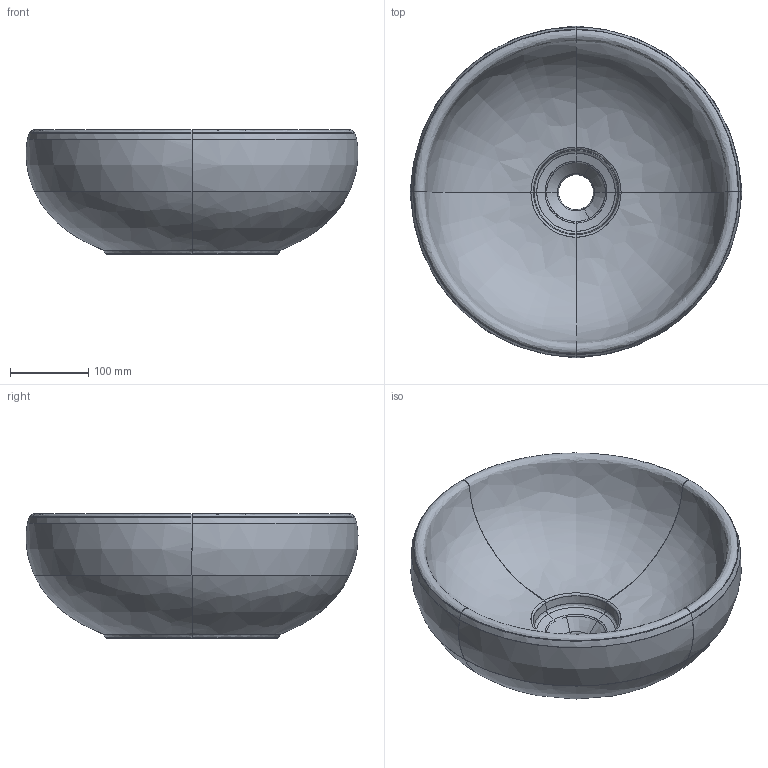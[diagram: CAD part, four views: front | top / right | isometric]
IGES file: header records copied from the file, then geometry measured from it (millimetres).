
Start section: START RECORD GO HERE.
Global section: file name: 7105_3D.igs; native system: DASSAULT SYSTEMES CATIA V5 R19 - www.3ds.com; preprocessor: CATIA Version 5 Release 19 SP 5 ; author: Luca; organization: DESKTOP-V7SON24; date: 20201027.121300; units: millimetre
Bounding box: 423.23 x 423.23 x 158.78 mm (x, y, z)
Surface area: 478828.4 mm2 (no closed solid volume)
Topology: 0 solids, 0 shells, 215 faces, 944 edges, 944 vertices
Faces by surface type: bspline 187, revolution 14, plane 14
